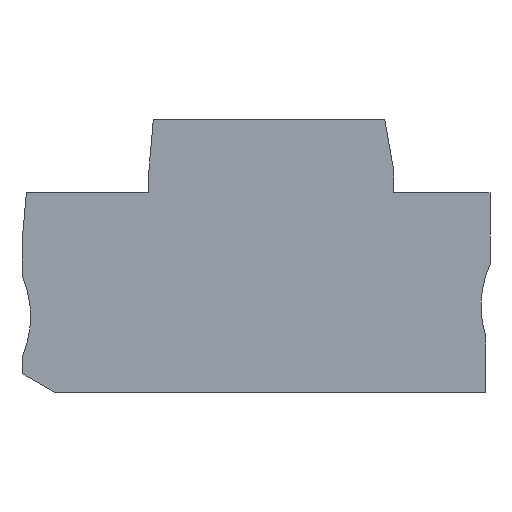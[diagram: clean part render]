
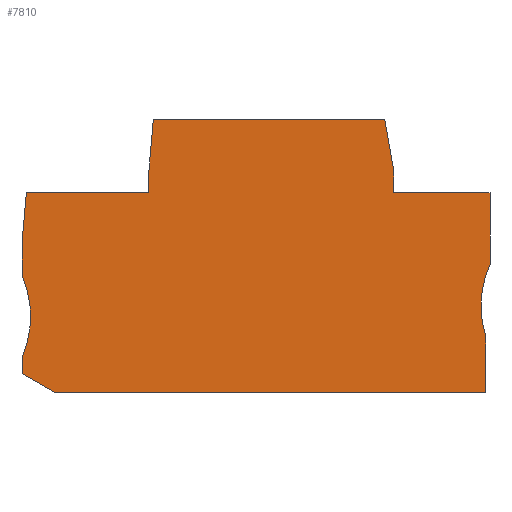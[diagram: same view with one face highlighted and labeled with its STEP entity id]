
A CAD part, left-side view. The second image highlights one B-rep face of the part: STEP entity #7810.
In plain terms, the highlighted planar face has unit normal (-1, 0, 0).
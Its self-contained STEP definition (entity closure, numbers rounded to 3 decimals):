
#7664=CARTESIAN_POINT('',(0.,7.149,37.247));
#7665=DIRECTION('',(1.,0.,0.));
#7666=DIRECTION('',(0.,1.,0.));
#7667=AXIS2_PLACEMENT_3D('',#7664,#7665,#7666);
#7668=PLANE('',#7667);
#7669=CARTESIAN_POINT('',(0.,68.15,2.643));
#7670=VERTEX_POINT('',#7669);
#7671=CARTESIAN_POINT('',(0.,68.15,5.));
#7672=VERTEX_POINT('',#7671);
#7673=CARTESIAN_POINT('',(0.,68.15,2.643));
#7674=DIRECTION('',(-0.,-0.,1.));
#7675=VECTOR('',#7674,2.357);
#7676=LINE('',#7673,#7675);
#7677=EDGE_CURVE('',#7670,#7672,#7676,.T.);
#7678=ORIENTED_EDGE('',*,*,#7677,.F.);
#7679=CARTESIAN_POINT('',(0.,63.486,-0.05));
#7680=VERTEX_POINT('',#7679);
#7681=CARTESIAN_POINT('',(0.,68.15,2.643));
#7682=DIRECTION('',(0.,-0.866,-0.5));
#7683=VECTOR('',#7682,5.385);
#7684=LINE('',#7681,#7683);
#7685=EDGE_CURVE('',#7670,#7680,#7684,.T.);
#7686=ORIENTED_EDGE('',*,*,#7685,.T.);
#7687=CARTESIAN_POINT('',(0.,0.55,-0.05));
#7688=VERTEX_POINT('',#7687);
#7689=CARTESIAN_POINT('',(0.,0.55,-0.05));
#7690=DIRECTION('',(-0.,1.,0.));
#7691=VECTOR('',#7690,62.936);
#7692=LINE('',#7689,#7691);
#7693=EDGE_CURVE('',#7688,#7680,#7692,.T.);
#7694=ORIENTED_EDGE('',*,*,#7693,.F.);
#7695=CARTESIAN_POINT('',(0.,0.55,8.));
#7696=VERTEX_POINT('',#7695);
#7697=CARTESIAN_POINT('',(0.,0.55,-0.05));
#7698=DIRECTION('',(0.,-0.,1.));
#7699=VECTOR('',#7698,8.05);
#7700=LINE('',#7697,#7699);
#7701=EDGE_CURVE('',#7688,#7696,#7700,.T.);
#7702=ORIENTED_EDGE('',*,*,#7701,.T.);
#7703=CARTESIAN_POINT('',(-0.,1.241,12.5));
#7704=VERTEX_POINT('',#7703);
#7705=CARTESIAN_POINT('',(0.,-13.759,12.5));
#7706=DIRECTION('',(1.,0.,0.));
#7707=DIRECTION('',(-0.,1.,0.));
#7708=AXIS2_PLACEMENT_3D('',#7705,#7706,#7707);
#7709=CIRCLE('',#7708,15.);
#7710=EDGE_CURVE('',#7696,#7704,#7709,.T.);
#7711=ORIENTED_EDGE('',*,*,#7710,.T.);
#7712=CARTESIAN_POINT('',(0.,-0.05,18.588));
#7713=VERTEX_POINT('',#7712);
#7714=CARTESIAN_POINT('',(-0.,-13.759,12.5));
#7715=DIRECTION('',(1.,0.,0.));
#7716=DIRECTION('',(-0.,1.,0.));
#7717=AXIS2_PLACEMENT_3D('',#7714,#7715,#7716);
#7718=CIRCLE('',#7717,15.);
#7719=EDGE_CURVE('',#7704,#7713,#7718,.T.);
#7720=ORIENTED_EDGE('',*,*,#7719,.T.);
#7721=CARTESIAN_POINT('',(0.,-0.05,29.05));
#7722=VERTEX_POINT('',#7721);
#7723=CARTESIAN_POINT('',(0.,-0.05,18.588));
#7724=DIRECTION('',(0.,-0.,1.));
#7725=VECTOR('',#7724,10.462);
#7726=LINE('',#7723,#7725);
#7727=EDGE_CURVE('',#7713,#7722,#7726,.T.);
#7728=ORIENTED_EDGE('',*,*,#7727,.T.);
#7729=CARTESIAN_POINT('',(0.,14.,29.05));
#7730=VERTEX_POINT('',#7729);
#7731=CARTESIAN_POINT('',(0.,-0.05,29.05));
#7732=DIRECTION('',(-0.,1.,0.));
#7733=VECTOR('',#7732,14.05);
#7734=LINE('',#7731,#7733);
#7735=EDGE_CURVE('',#7722,#7730,#7734,.T.);
#7736=ORIENTED_EDGE('',*,*,#7735,.T.);
#7737=CARTESIAN_POINT('',(0.,14.,32.362));
#7738=VERTEX_POINT('',#7737);
#7739=CARTESIAN_POINT('',(0.,14.,29.05));
#7740=DIRECTION('',(0.,0.,1.));
#7741=VECTOR('',#7740,3.312);
#7742=LINE('',#7739,#7741);
#7743=EDGE_CURVE('',#7730,#7738,#7742,.T.);
#7744=ORIENTED_EDGE('',*,*,#7743,.T.);
#7745=CARTESIAN_POINT('',(0.,15.297,39.65));
#7746=VERTEX_POINT('',#7745);
#7747=CARTESIAN_POINT('',(0.,15.297,39.65));
#7748=DIRECTION('',(-0.,-0.175,-0.985));
#7749=VECTOR('',#7748,7.403);
#7750=LINE('',#7747,#7749);
#7751=EDGE_CURVE('',#7746,#7738,#7750,.T.);
#7752=ORIENTED_EDGE('',*,*,#7751,.F.);
#7753=CARTESIAN_POINT('',(0.,49.014,39.65));
#7754=VERTEX_POINT('',#7753);
#7755=CARTESIAN_POINT('',(0.,15.297,39.65));
#7756=DIRECTION('',(-0.,1.,0.));
#7757=VECTOR('',#7756,33.717);
#7758=LINE('',#7755,#7757);
#7759=EDGE_CURVE('',#7746,#7754,#7758,.T.);
#7760=ORIENTED_EDGE('',*,*,#7759,.T.);
#7761=CARTESIAN_POINT('',(0.,49.65,32.327));
#7762=VERTEX_POINT('',#7761);
#7763=CARTESIAN_POINT('',(0.,49.65,32.327));
#7764=DIRECTION('',(-0.,-0.087,0.996));
#7765=VECTOR('',#7764,7.351);
#7766=LINE('',#7763,#7765);
#7767=EDGE_CURVE('',#7762,#7754,#7766,.T.);
#7768=ORIENTED_EDGE('',*,*,#7767,.F.);
#7769=CARTESIAN_POINT('',(0.,49.65,29.05));
#7770=VERTEX_POINT('',#7769);
#7771=CARTESIAN_POINT('',(0.,49.65,29.05));
#7772=DIRECTION('',(0.,0.,1.));
#7773=VECTOR('',#7772,3.277);
#7774=LINE('',#7771,#7773);
#7775=EDGE_CURVE('',#7770,#7762,#7774,.T.);
#7776=ORIENTED_EDGE('',*,*,#7775,.F.);
#7777=CARTESIAN_POINT('',(0.,67.514,29.05));
#7778=VERTEX_POINT('',#7777);
#7779=CARTESIAN_POINT('',(0.,49.65,29.05));
#7780=DIRECTION('',(-0.,1.,0.));
#7781=VECTOR('',#7780,17.864);
#7782=LINE('',#7779,#7781);
#7783=EDGE_CURVE('',#7770,#7778,#7782,.T.);
#7784=ORIENTED_EDGE('',*,*,#7783,.T.);
#7785=CARTESIAN_POINT('',(0.,68.15,21.727));
#7786=VERTEX_POINT('',#7785);
#7787=CARTESIAN_POINT('',(0.,68.15,21.727));
#7788=DIRECTION('',(-0.,-0.087,0.996));
#7789=VECTOR('',#7788,7.351);
#7790=LINE('',#7787,#7789);
#7791=EDGE_CURVE('',#7786,#7778,#7790,.T.);
#7792=ORIENTED_EDGE('',*,*,#7791,.F.);
#7793=CARTESIAN_POINT('',(0.,68.15,17.));
#7794=VERTEX_POINT('',#7793);
#7795=CARTESIAN_POINT('',(0.,68.15,21.727));
#7796=DIRECTION('',(0.,0.,-1.));
#7797=VECTOR('',#7796,4.727);
#7798=LINE('',#7795,#7797);
#7799=EDGE_CURVE('',#7786,#7794,#7798,.T.);
#7800=ORIENTED_EDGE('',*,*,#7799,.T.);
#7801=CARTESIAN_POINT('',(0.,81.898,11.));
#7802=DIRECTION('',(1.,0.,0.));
#7803=DIRECTION('',(-0.,1.,0.));
#7804=AXIS2_PLACEMENT_3D('',#7801,#7802,#7803);
#7805=CIRCLE('',#7804,15.);
#7806=EDGE_CURVE('',#7794,#7672,#7805,.T.);
#7807=ORIENTED_EDGE('',*,*,#7806,.T.);
#7808=EDGE_LOOP('',(#7678,#7686,#7694,#7702,#7711,#7720,#7728,#7736,#7744,#7752,#7760,#7768,#7776,#7784,#7792,#7800,#7807));
#7809=FACE_BOUND('',#7808,.T.);
#7810=ADVANCED_FACE('',(#7809),#7668,.F.);
